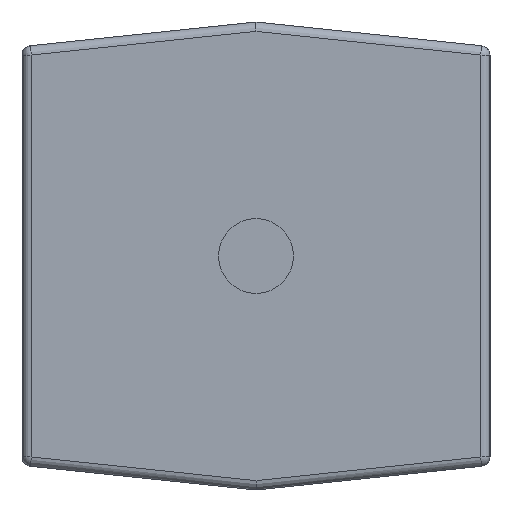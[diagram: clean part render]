
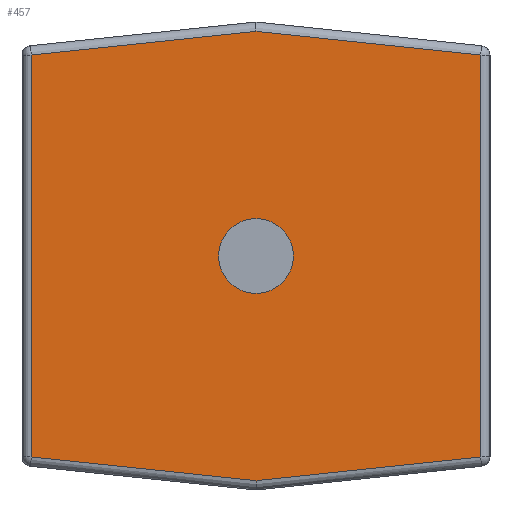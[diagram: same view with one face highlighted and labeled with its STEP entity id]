
A CAD part, left-side view. The second image highlights one B-rep face of the part: STEP entity #457.
In plain terms, the highlighted planar face has unit normal (-1, 0, 0).
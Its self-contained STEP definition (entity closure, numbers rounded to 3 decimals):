
#113 = ORIENTED_EDGE ( 'NONE', *, *, #226, .T. ) ;
#140 = CARTESIAN_POINT ( 'NONE',  ( 0., 1.245, 1.069 ) ) ;
#148 = CARTESIAN_POINT ( 'NONE',  ( 0., 0., 1.2 ) ) ;
#180 = CARTESIAN_POINT ( 'NONE',  ( 0., 0., -1.2 ) ) ;
#226 = EDGE_CURVE ( 'NONE', #2554, #488, #1873, .T. ) ;
#361 = CARTESIAN_POINT ( 'NONE',  ( 0., -1.245, -1.069 ) ) ;
#366 = CARTESIAN_POINT ( 'NONE',  ( 0., 1.2, 0. ) ) ;
#368 = CARTESIAN_POINT ( 'NONE',  ( 0., -1.2, -1.074 ) ) ;
#380 = VECTOR ( 'NONE', #1356, 1000. ) ;
#457 = ADVANCED_FACE ( 'NONE', ( #1614 ), #1045, .F. ) ;
#488 = VERTEX_POINT ( 'NONE', #1418 ) ;
#495 = ORIENTED_EDGE ( 'NONE', *, *, #1097, .T. ) ;
#622 = VECTOR ( 'NONE', #811, 1000. ) ;
#662 = CARTESIAN_POINT ( 'NONE',  ( 0., -0.005, -1.2 ) ) ;
#676 = DIRECTION ( 'NONE',  ( 0., -0.995, -0.105 ) ) ;
#768 = CARTESIAN_POINT ( 'NONE',  ( 0., 0.005, 1.2 ) ) ;
#771 = DIRECTION ( 'NONE',  ( 0., 0., 1. ) ) ;
#811 = DIRECTION ( 'NONE',  ( 0., 0., -1. ) ) ;
#905 = VERTEX_POINT ( 'NONE', #1518 ) ;
#987 = CARTESIAN_POINT ( 'NONE',  ( 0., -1.2, 0. ) ) ;
#1045 = PLANE ( 'NONE',  #2056 ) ;
#1087 = VERTEX_POINT ( 'NONE', #368 ) ;
#1097 = EDGE_CURVE ( 'NONE', #1087, #1114, #2371, .T. ) ;
#1114 = VERTEX_POINT ( 'NONE', #1777 ) ;
#1215 = ORIENTED_EDGE ( 'NONE', *, *, #2280, .T. ) ;
#1236 = DIRECTION ( 'NONE',  ( 0., 0., -1. ) ) ;
#1238 = VECTOR ( 'NONE', #771, 1000. ) ;
#1283 = LINE ( 'NONE', #662, #1335 ) ;
#1335 = VECTOR ( 'NONE', #676, 1000. ) ;
#1356 = DIRECTION ( 'NONE',  ( 0., 0.995, -0.105 ) ) ;
#1418 = CARTESIAN_POINT ( 'NONE',  ( 0., 1.2, 1.074 ) ) ;
#1466 = VERTEX_POINT ( 'NONE', #180 ) ;
#1469 = VECTOR ( 'NONE', #1549, 1000. ) ;
#1518 = CARTESIAN_POINT ( 'NONE',  ( 0., 1.2, -1.074 ) ) ;
#1524 = ORIENTED_EDGE ( 'NONE', *, *, #1601, .T. ) ;
#1549 = DIRECTION ( 'NONE',  ( 0., -0.995, 0.105 ) ) ;
#1587 = DIRECTION ( 'NONE',  ( 1., 0., 0. ) ) ;
#1601 = EDGE_CURVE ( 'NONE', #1114, #2554, #1760, .T. ) ;
#1614 = FACE_OUTER_BOUND ( 'NONE', #2024, .T. ) ;
#1626 = VECTOR ( 'NONE', #1997, 1000. ) ;
#1720 = ORIENTED_EDGE ( 'NONE', *, *, #1982, .T. ) ;
#1760 = LINE ( 'NONE', #768, #1626 ) ;
#1777 = CARTESIAN_POINT ( 'NONE',  ( 0., -1.2, 1.074 ) ) ;
#1781 = LINE ( 'NONE', #361, #1469 ) ;
#1873 = LINE ( 'NONE', #140, #380 ) ;
#1971 = ORIENTED_EDGE ( 'NONE', *, *, #2533, .T. ) ;
#1982 = EDGE_CURVE ( 'NONE', #905, #1466, #1283, .T. ) ;
#1997 = DIRECTION ( 'NONE',  ( 0., 0.995, 0.105 ) ) ;
#2024 = EDGE_LOOP ( 'NONE', ( #1215, #1720, #1971, #495, #1524, #113 ) ) ;
#2056 = AXIS2_PLACEMENT_3D ( 'NONE', #2422, #1587, #1236 ) ;
#2169 = LINE ( 'NONE', #366, #622 ) ;
#2280 = EDGE_CURVE ( 'NONE', #488, #905, #2169, .T. ) ;
#2371 = LINE ( 'NONE', #987, #1238 ) ;
#2422 = CARTESIAN_POINT ( 'NONE',  ( 0., 0., 0. ) ) ;
#2533 = EDGE_CURVE ( 'NONE', #1466, #1087, #1781, .T. ) ;
#2554 = VERTEX_POINT ( 'NONE', #148 ) ;
